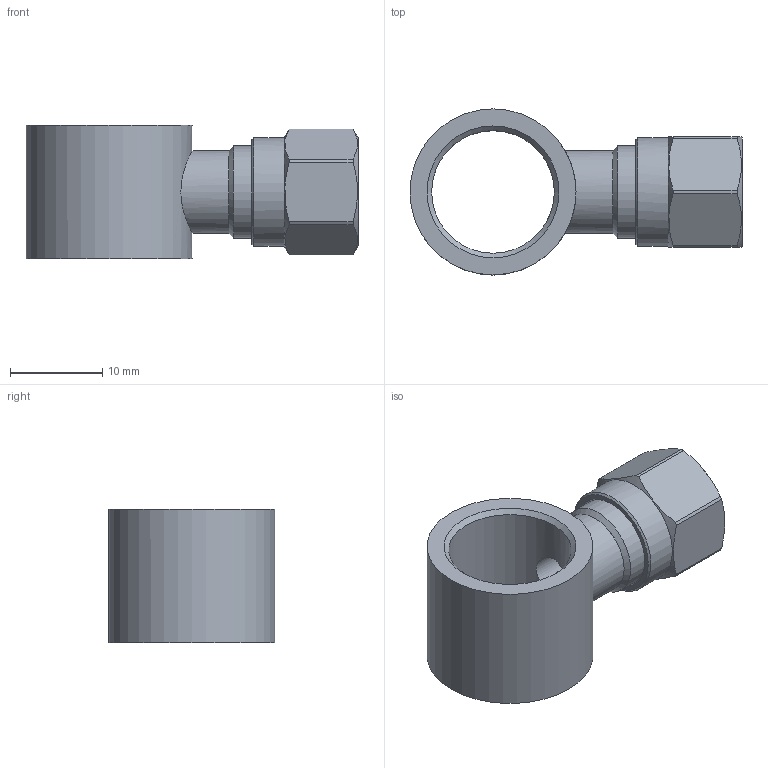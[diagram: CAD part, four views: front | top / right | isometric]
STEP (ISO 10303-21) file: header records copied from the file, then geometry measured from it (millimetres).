
FILE_DESCRIPTION(('Bauteilbeschreibung','HiCAD-Model','HiCAD-STEP-TRANSLATION','Bauteilbeschreibung'),'2;1');
FILE_NAME('B:/ABGLEICH/ZEICHNUNGEN/STEP FÜR INTERNET/STEP/216/95103_216_6_1-4.STP','2011-11-28T11:01:33+00:00',('Konstrukteur'),('Konstrukteur Firma GmbH'),' HiCAD neXt 2008, Step 3.1.1401.2J ','HiCAD neXt 2008','confidential');
FILE_SCHEMA(('AUTOMOTIVE_DESIGN { 1 2 10303 214 0 1 1 1 }'));
Length unit declared in the file: millimetre
Products named in the file (7): A5103_216_6_1_4; A5103; A51030; DIN 13_M10X1; A6802; A68020; DIN0130M10X1
Assembly tree (6 placements, depth 3):
  A5103_216_6_1_4
    A5103
    A51030
      DIN 13_M10X1
    A6802
    A68020
      DIN0130M10X1
Bounding box: 36 x 18 x 14.5 mm (x, y, z)
Volume: 2875 mm3; surface area: 3839.2 mm2
Topology: 4 solids, 4 shells, 49 faces, 112 edges, 73 vertices
Faces by surface type: cylinder 20, plane 16, cone 13
Full cylindrical faces by diameter (mm): 4.5 x1, 6 x2, 8.773 x4, 9 x1, 10 x3, 11.8 x1, 13.3 x1, 18 x1
Entity records: 2986 total; most frequent: CARTESIAN_POINT 1514, DIRECTION 228, ORIENTED_EDGE 146, AXIS2_PLACEMENT_3D 108, EDGE_LOOP 88, COLOUR_RGB 75, PRESENTATION_STYLE_ASSIGNMENT 75, EDGE_CURVE 73
